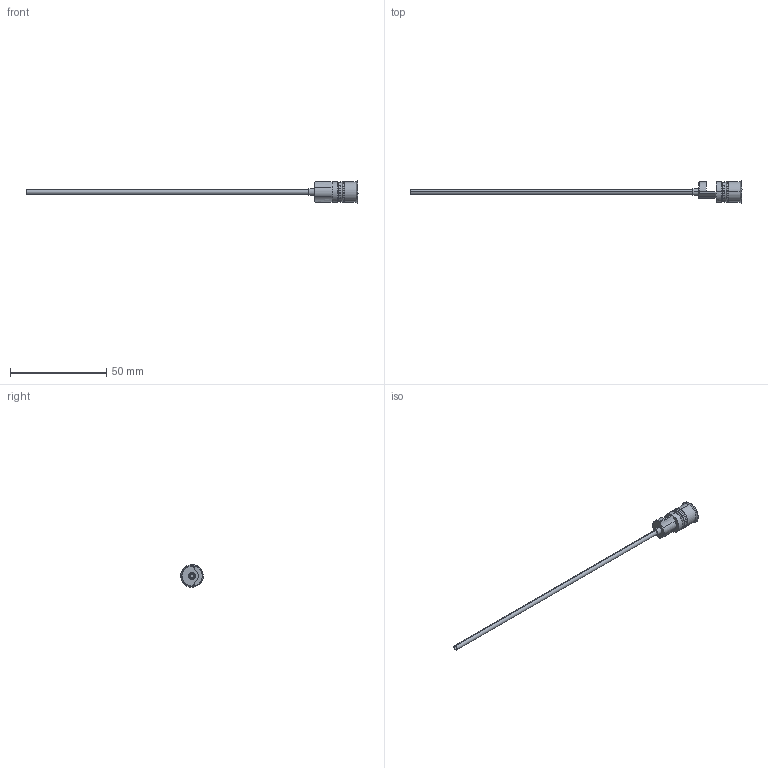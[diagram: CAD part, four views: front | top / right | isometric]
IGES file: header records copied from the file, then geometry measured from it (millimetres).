
Start section: START RECORD GO HERE.
Global section: file name: RF-10x150_2.5.igs; native system: DASSAULT SYSTEMES CATIA V5 R20 - www.3ds.com; preprocessor: CATIA Version 5 Release 20 ; author: Utente; organization: NB04-ASUS; date: 20210223.202755; units: millimetre
Bounding box: 172.5 x 11.8 x 11.8 mm (x, y, z)
Surface area: 3408.7 mm2 (no closed solid volume)
Topology: 0 solids, 0 shells, 68 faces, 384 edges, 384 vertices
Faces by surface type: revolution 42, plane 26
